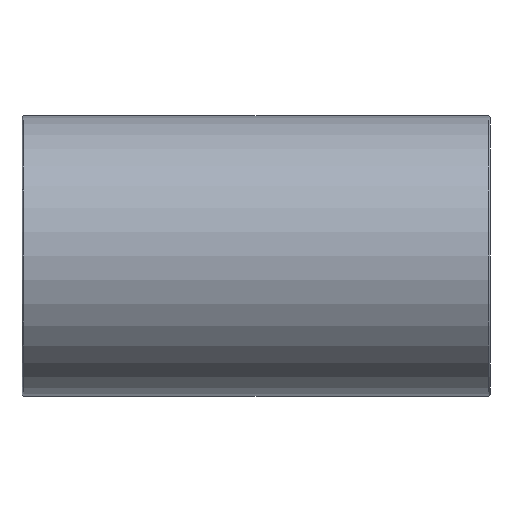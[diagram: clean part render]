
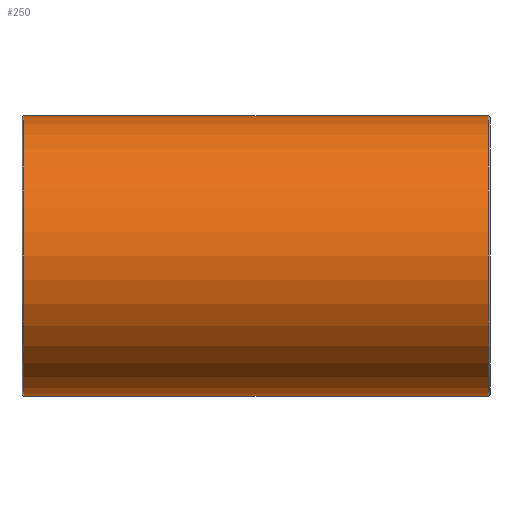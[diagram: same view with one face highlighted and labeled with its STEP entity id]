
A CAD part, left-side view. The second image highlights one B-rep face of the part: STEP entity #250.
In plain terms, the highlighted cylindrical face has radius 79.6 mm (diameter 159.2 mm), a partial arc.
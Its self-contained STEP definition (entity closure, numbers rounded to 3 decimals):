
#169=CARTESIAN_POINT('Vertex',(0.,132.,79.6)) ;
#176=CARTESIAN_POINT('Vertex',(0.,132.,-79.6)) ;
#196=CARTESIAN_POINT('Axis2P3D Location',(0.,132.,0.)) ;
#208=CARTESIAN_POINT('Axis2P3D Location',(0.,0.,0.)) ;
#213=CARTESIAN_POINT('Line Origine',(0.,0.,79.6)) ;
#217=CARTESIAN_POINT('Vertex',(0.,-132.,79.6)) ;
#224=CARTESIAN_POINT('Vertex',(0.,-132.,-79.6)) ;
#227=CARTESIAN_POINT('Line Origine',(0.,0.,-79.6)) ;
#239=CARTESIAN_POINT('Axis2P3D Location',(0.,-132.,0.)) ;
#197=DIRECTION('Axis2P3D Direction',(0.,1.,0.)) ;
#209=DIRECTION('Axis2P3D Direction',(0.,1.,0.)) ;
#210=DIRECTION('Axis2P3D XDirection',(0.,0.,1.)) ;
#214=DIRECTION('Vector Direction',(0.,1.,0.)) ;
#228=DIRECTION('Vector Direction',(0.,1.,0.)) ;
#240=DIRECTION('Axis2P3D Direction',(0.,1.,0.)) ;
#198=AXIS2_PLACEMENT_3D('Circle Axis2P3D',#196,#197,$) ;
#211=AXIS2_PLACEMENT_3D('Cylinder Axis2P3D',#208,#209,#210) ;
#241=AXIS2_PLACEMENT_3D('Circle Axis2P3D',#239,#240,$) ;
#245=ORIENTED_EDGE('',*,*,#200,.F.) ;
#246=ORIENTED_EDGE('',*,*,#231,.T.) ;
#247=ORIENTED_EDGE('',*,*,#243,.T.) ;
#248=ORIENTED_EDGE('',*,*,#219,.F.) ;
#215=VECTOR('Line Direction',#214,1.) ;
#229=VECTOR('Line Direction',#228,1.) ;
#250=ADVANCED_FACE('Corps de pi\X2\00E8\X0\ce.3',(#249),#212,.T.) ;
#199=CIRCLE('generated circle',#198,79.6) ;
#242=CIRCLE('generated circle',#241,79.6) ;
#212=CYLINDRICAL_SURFACE('generated cylinder',#211,79.6) ;
#200=EDGE_CURVE('',#177,#170,#199,.T.) ;
#219=EDGE_CURVE('',#170,#218,#216,.F.) ;
#231=EDGE_CURVE('',#177,#225,#230,.F.) ;
#243=EDGE_CURVE('',#225,#218,#242,.T.) ;
#244=EDGE_LOOP('',(#245,#246,#247,#248)) ;
#249=FACE_OUTER_BOUND('',#244,.T.) ;
#216=LINE('Line',#213,#215) ;
#230=LINE('Line',#227,#229) ;
#170=VERTEX_POINT('',#169) ;
#177=VERTEX_POINT('',#176) ;
#218=VERTEX_POINT('',#217) ;
#225=VERTEX_POINT('',#224) ;
